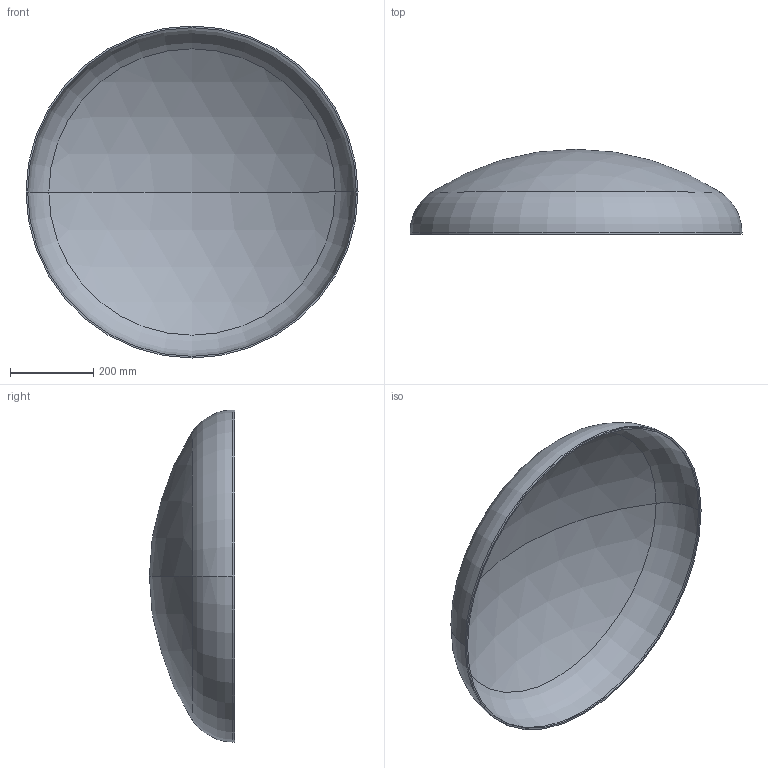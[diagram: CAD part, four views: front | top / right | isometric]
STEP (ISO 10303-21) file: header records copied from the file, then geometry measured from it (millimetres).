
FILE_DESCRIPTION (( 'STEP AP203' ), '1' );
FILE_NAME ('3D_R365_800x4_173374660.STEP', '2024-07-16T07:34:29', ( '' ), ( '' ), 'SwSTEP 2.0', 'SolidWorks 2024', '' );
FILE_SCHEMA (( 'CONFIG_CONTROL_DESIGN' ));
Length unit declared in the file: millimetre
Products named in the file (1): 3D_R365_800x4_173374660
Bounding box: 800 x 205 x 800 mm (x, y, z)
Volume: 2767390.5 mm3; surface area: 1393731 mm2
Topology: 1 solids, 1 shells, 13 faces, 24 edges, 14 vertices
Faces by surface type: sphere 4, torus 4, cylinder 4, plane 1
Entity records: 407 total; most frequent: DIRECTION 72, CARTESIAN_POINT 52, ORIENTED_EDGE 48, AXIS2_PLACEMENT_3D 34, EDGE_CURVE 24, CIRCLE 20, VERTEX_POINT 14, EDGE_LOOP 14
